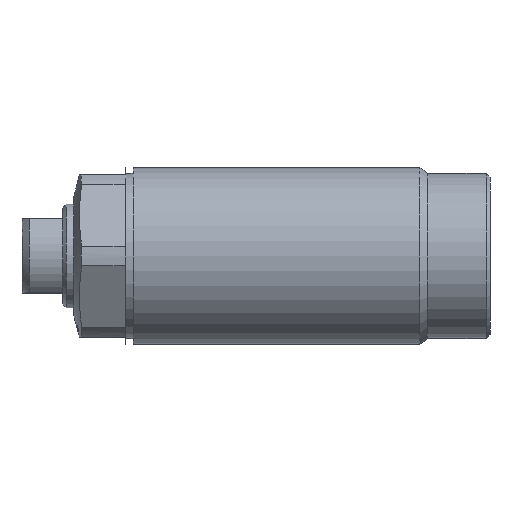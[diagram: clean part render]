
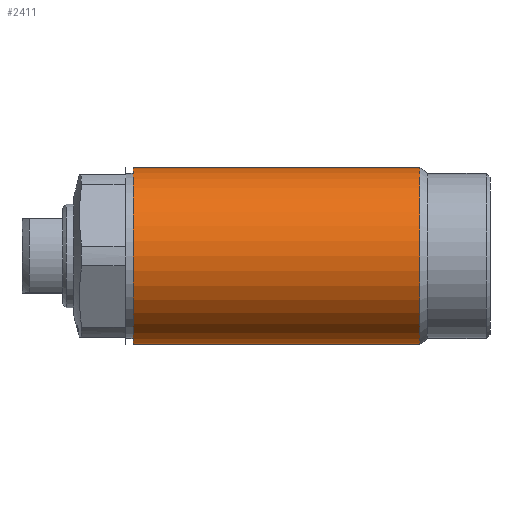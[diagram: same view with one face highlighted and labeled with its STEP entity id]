
A CAD part, left-side view. The second image highlights one B-rep face of the part: STEP entity #2411.
In plain terms, the highlighted cylindrical face has radius 12 mm (diameter 24 mm), a partial arc.
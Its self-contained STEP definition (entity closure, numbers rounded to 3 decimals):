
#8 = DIRECTION ( 'NONE',  ( 0., -1., 0. ) ) ;
#15 = VECTOR ( 'NONE', #6182, 1000. ) ;
#116 = DIRECTION ( 'NONE',  ( 0., 0., -1. ) ) ;
#371 = CARTESIAN_POINT ( 'NONE',  ( 0., -11.899, 0. ) ) ;
#427 = EDGE_LOOP ( 'NONE', ( #1685, #9549, #4980, #3763 ) ) ;
#589 = DIRECTION ( 'NONE',  ( 0., -1., 0. ) ) ;
#1253 = FACE_OUTER_BOUND ( 'NONE', #427, .T. ) ;
#1406 = CARTESIAN_POINT ( 'NONE',  ( 0., -11.899, -12. ) ) ;
#1685 = ORIENTED_EDGE ( 'NONE', *, *, #3800, .F. ) ;
#1830 = EDGE_CURVE ( 'NONE', #6270, #8064, #10355, .T. ) ;
#2108 = CARTESIAN_POINT ( 'NONE',  ( 0., 27.029, 12. ) ) ;
#2312 = DIRECTION ( 'NONE',  ( 0., -1., 0. ) ) ;
#2411 = ADVANCED_FACE ( 'NONE', ( #1253 ), #11479, .T. ) ;
#2467 = CARTESIAN_POINT ( 'NONE',  ( 0., 27.029, -12. ) ) ;
#3235 = CARTESIAN_POINT ( 'NONE',  ( 0., -54.764, -12. ) ) ;
#3576 = EDGE_CURVE ( 'NONE', #9831, #8064, #7993, .T. ) ;
#3763 = ORIENTED_EDGE ( 'NONE', *, *, #1830, .F. ) ;
#3800 = EDGE_CURVE ( 'NONE', #9148, #6270, #6869, .T. ) ;
#3887 = CIRCLE ( 'NONE', #8476, 12. ) ;
#3950 = EDGE_CURVE ( 'NONE', #9148, #9831, #3887, .T. ) ;
#4865 = DIRECTION ( 'NONE',  ( 0., -1., 0. ) ) ;
#4980 = ORIENTED_EDGE ( 'NONE', *, *, #3576, .T. ) ;
#5767 = AXIS2_PLACEMENT_3D ( 'NONE', #371, #8, #116 ) ;
#6182 = DIRECTION ( 'NONE',  ( 0., -1., 0. ) ) ;
#6270 = VERTEX_POINT ( 'NONE', #8245 ) ;
#6757 = AXIS2_PLACEMENT_3D ( 'NONE', #9457, #589, #11303 ) ;
#6869 = LINE ( 'NONE', #7151, #15 ) ;
#7151 = CARTESIAN_POINT ( 'NONE',  ( 0., -54.764, 12. ) ) ;
#7714 = VECTOR ( 'NONE', #2312, 1000. ) ;
#7993 = LINE ( 'NONE', #3235, #7714 ) ;
#8064 = VERTEX_POINT ( 'NONE', #1406 ) ;
#8245 = CARTESIAN_POINT ( 'NONE',  ( 0., -11.899, 12. ) ) ;
#8476 = AXIS2_PLACEMENT_3D ( 'NONE', #10211, #4865, #11111 ) ;
#9148 = VERTEX_POINT ( 'NONE', #2108 ) ;
#9457 = CARTESIAN_POINT ( 'NONE',  ( 0., -54.764, 0. ) ) ;
#9549 = ORIENTED_EDGE ( 'NONE', *, *, #3950, .T. ) ;
#9831 = VERTEX_POINT ( 'NONE', #2467 ) ;
#10211 = CARTESIAN_POINT ( 'NONE',  ( 0., 27.029, 0. ) ) ;
#10355 = CIRCLE ( 'NONE', #5767, 12. ) ;
#11111 = DIRECTION ( 'NONE',  ( 0., 0., -1. ) ) ;
#11303 = DIRECTION ( 'NONE',  ( 0., 0., -1. ) ) ;
#11479 = CYLINDRICAL_SURFACE ( 'NONE', #6757, 12. ) ;
